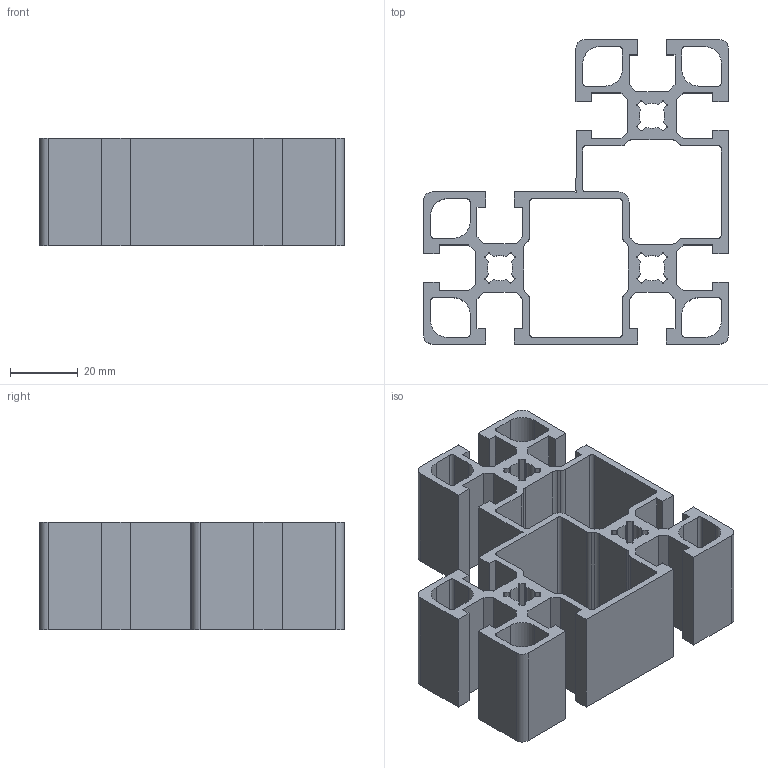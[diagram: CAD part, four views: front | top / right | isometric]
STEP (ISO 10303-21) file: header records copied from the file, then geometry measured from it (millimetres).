
FILE_DESCRIPTION((''),'2;1');
FILE_NAME('C:\Andys Backup Data\WEBSITE\DREAMWEAVER\MiniTec\Products\Aluminum_Profiles\CAD\STEP\20.0984 90X90X45.stp','2018-01-31T16:35:10',('amoles'),(''),'Autodesk Inventor 2012','Autodesk Inventor 2012','');
FILE_SCHEMA(('AUTOMOTIVE_DESIGN { 1 0 10303 214 1 1 1 1 }'));
Length unit declared in the file: inch
Products named in the file (1): 20.0984 90X90X45
Bounding box: 90 x 90 x 31.75 mm (x, y, z)
Volume: 52451.7 mm3; surface area: 43165.1 mm2
Topology: 1 solids, 1 shells, 282 faces, 840 edges, 560 vertices
Faces by surface type: plane 169, cylinder 113
Entity records: 9558 total; most frequent: CARTESIAN_POINT 1683, ORIENTED_EDGE 1680, DIRECTION 1632, EDGE_CURVE 840, VECTOR 614, LINE 614, VERTEX_POINT 560, AXIS2_PLACEMENT_3D 509
